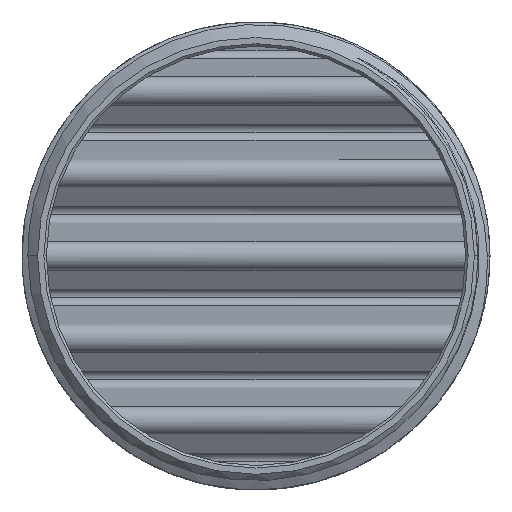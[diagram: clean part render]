
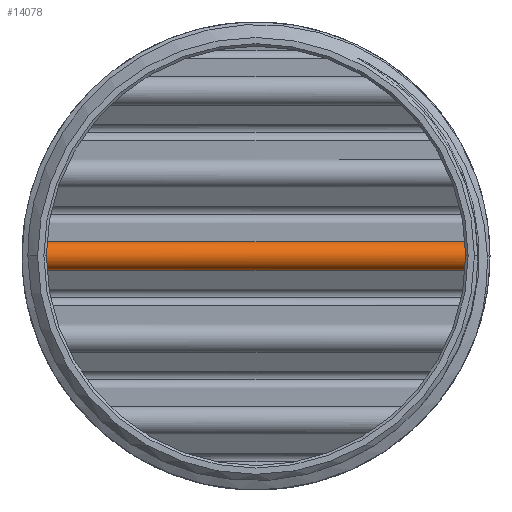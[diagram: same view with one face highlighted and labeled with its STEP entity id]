
A CAD part, top view. The second image highlights one B-rep face of the part: STEP entity #14078.
In plain terms, the highlighted cylindrical face has radius 1.492 mm (diameter 2.984 mm), a partial arc.
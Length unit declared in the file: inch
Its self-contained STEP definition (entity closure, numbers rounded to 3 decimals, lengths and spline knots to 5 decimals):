
#246 = CARTESIAN_POINT ( 'NONE',  ( 0.84, 0., 0. ) ) ;
#303 = CARTESIAN_POINT ( 'NONE',  ( 0.84, 0., 0. ) ) ;
#632 = CARTESIAN_POINT ( 'NONE',  ( -0.83967, 0.02578, -0.00439 ) ) ;
#875 = CYLINDRICAL_SURFACE ( 'NONE', #14799, 0.05875 ) ;
#968 = FACE_OUTER_BOUND ( 'NONE', #5817, .T. ) ;
#997 = CARTESIAN_POINT ( 'NONE',  ( -0.84, 0., 0. ) ) ;
#1983 = CARTESIAN_POINT ( 'NONE',  ( 0.839, 0.0412, -0.01637 ) ) ;
#2055 = CARTESIAN_POINT ( 'NONE',  ( 0.83807, 0.05693, -0.04423 ) ) ;
#2251 = CARTESIAN_POINT ( 'NONE',  ( 0.84, -0.00653, 0. ) ) ;
#2628 = EDGE_CURVE ( 'NONE', #20427, #12215, #3025, .T. ) ;
#3025 = LINE ( 'NONE', #14902, #8399 ) ;
#3804 = ORIENTED_EDGE ( 'NONE', *, *, #15403, .F. ) ;
#3927 = VECTOR ( 'NONE', #20384, 39.37008 ) ;
#4261 = CARTESIAN_POINT ( 'NONE',  ( -0.83967, -0.02576, -0.00436 ) ) ;
#4585 = CARTESIAN_POINT ( 'NONE',  ( -0.83807, -0.05693, -0.04423 ) ) ;
#5245 = CARTESIAN_POINT ( 'NONE',  ( 0.83835, 0.05272, -0.03201 ) ) ;
#5521 = CARTESIAN_POINT ( 'NONE',  ( -0.83829, 0.0537, -0.03158 ) ) ;
#5556 = CARTESIAN_POINT ( 'NONE',  ( -0.83807, -0.05693, -0.04423 ) ) ;
#5621 = CARTESIAN_POINT ( 'NONE',  ( -0.84, 0.013, 0. ) ) ;
#5817 = EDGE_LOOP ( 'NONE', ( #11513, #12515, #7499, #17118, #5905, #3804 ) ) ;
#5905 = ORIENTED_EDGE ( 'NONE', *, *, #9117, .F. ) ;
#6087 = CARTESIAN_POINT ( 'NONE',  ( -0.83901, -0.04119, -0.01636 ) ) ;
#6170 = DIRECTION ( 'NONE',  ( 0., 0., -1. ) ) ;
#6582 = VERTEX_POINT ( 'NONE', #18367 ) ;
#7499 = ORIENTED_EDGE ( 'NONE', *, *, #18759, .F. ) ;
#7529 = CARTESIAN_POINT ( 'NONE',  ( 0.83964, -0.02522, -0.00529 ) ) ;
#7578 = CARTESIAN_POINT ( 'NONE',  ( -0.83877, -0.04557, -0.0211 ) ) ;
#7776 = CARTESIAN_POINT ( 'NONE',  ( -0.83807, 0.05693, -0.04423 ) ) ;
#8399 = VECTOR ( 'NONE', #16224, 39.37008 ) ;
#8843 = CARTESIAN_POINT ( 'NONE',  ( 0.83992, -0.01288, -0.00106 ) ) ;
#9117 = EDGE_CURVE ( 'NONE', #6582, #14117, #9316, .T. ) ;
#9316 = B_SPLINE_CURVE_WITH_KNOTS ( 'NONE', 3,
 ( #13921, #5621, #632, #20328, #5521, #12108 ),
 .UNSPECIFIED., .F., .F.,
 ( 4, 2, 4 ),
 ( 0.00196, 0.00294, 0.00392 ),
 .UNSPECIFIED. ) ;
#9420 = CARTESIAN_POINT ( 'NONE',  ( -0.83818, -0.05531, -0.0379 ) ) ;
#9474 = CARTESIAN_POINT ( 'NONE',  ( 0.83945, -0.03089, -0.00835 ) ) ;
#9497 = B_SPLINE_CURVE_WITH_KNOTS ( 'NONE', 3,
 ( #303, #2251, #8843, #7529, #9474, #12617, #13910, #19335 ),
 .UNSPECIFIED., .F., .F.,
 ( 4, 2, 2, 4 ),
 ( 0., 0.00049, 0.00098, 0.00196 ),
 .UNSPECIFIED. ) ;
#9824 = VERTEX_POINT ( 'NONE', #2055 ) ;
#10448 = LINE ( 'NONE', #11949, #3927 ) ;
#11513 = ORIENTED_EDGE ( 'NONE', *, *, #2628, .T. ) ;
#11607 = CARTESIAN_POINT ( 'NONE',  ( 0.83877, 0.04557, -0.02111 ) ) ;
#11831 = CARTESIAN_POINT ( 'NONE',  ( 0.84, 0.01306, 0. ) ) ;
#11949 = CARTESIAN_POINT ( 'NONE',  ( -1.06, 0.05693, -0.04423 ) ) ;
#12108 = CARTESIAN_POINT ( 'NONE',  ( -0.83807, 0.05693, -0.04423 ) ) ;
#12215 = VERTEX_POINT ( 'NONE', #19540 ) ;
#12515 = ORIENTED_EDGE ( 'NONE', *, *, #14402, .F. ) ;
#12617 = CARTESIAN_POINT ( 'NONE',  ( 0.83879, -0.04632, -0.02033 ) ) ;
#12952 = EDGE_CURVE ( 'NONE', #14117, #9824, #10448, .T. ) ;
#13332 = CARTESIAN_POINT ( 'NONE',  ( 0.83967, 0.02578, -0.00438 ) ) ;
#13559 = CARTESIAN_POINT ( 'NONE',  ( 0.83807, 0.05693, -0.04423 ) ) ;
#13910 = CARTESIAN_POINT ( 'NONE',  ( 0.83829, -0.0537, -0.03157 ) ) ;
#13921 = CARTESIAN_POINT ( 'NONE',  ( -0.84, 0., 0. ) ) ;
#14078 = ADVANCED_FACE ( 'NONE', ( #968 ), #875, .T. ) ;
#14117 = VERTEX_POINT ( 'NONE', #7776 ) ;
#14176 = CARTESIAN_POINT ( 'NONE',  ( -0.84, -0.01301, 0. ) ) ;
#14402 = EDGE_CURVE ( 'NONE', #19837, #12215, #9497, .T. ) ;
#14799 = AXIS2_PLACEMENT_3D ( 'NONE', #17619, #19036, #6170 ) ;
#14902 = CARTESIAN_POINT ( 'NONE',  ( -1.06, -0.05693, -0.04423 ) ) ;
#15403 = EDGE_CURVE ( 'NONE', #20427, #6582, #19656, .T. ) ;
#15479 = CARTESIAN_POINT ( 'NONE',  ( 0.84, 0., 0. ) ) ;
#16224 = DIRECTION ( 'NONE',  ( 1., 0., 0. ) ) ;
#17118 = ORIENTED_EDGE ( 'NONE', *, *, #12952, .F. ) ;
#17619 = CARTESIAN_POINT ( 'NONE',  ( -1.06, 0., -0.05875 ) ) ;
#18367 = CARTESIAN_POINT ( 'NONE',  ( -0.84, 0., 0. ) ) ;
#18759 = EDGE_CURVE ( 'NONE', #9824, #19837, #21150, .T. ) ;
#19036 = DIRECTION ( 'NONE',  ( 1., 0., 0. ) ) ;
#19164 = CARTESIAN_POINT ( 'NONE',  ( -0.83835, -0.05272, -0.03201 ) ) ;
#19335 = CARTESIAN_POINT ( 'NONE',  ( 0.83807, -0.05693, -0.04423 ) ) ;
#19540 = CARTESIAN_POINT ( 'NONE',  ( 0.83807, -0.05693, -0.04423 ) ) ;
#19656 = B_SPLINE_CURVE_WITH_KNOTS ( 'NONE', 3,
 ( #4585, #9420, #19164, #7578, #6087, #4261, #14176, #997 ),
 .UNSPECIFIED., .F., .F.,
 ( 4, 2, 2, 4 ),
 ( 0., 0.00049, 0.00098, 0.00196 ),
 .UNSPECIFIED. ) ;
#19837 = VERTEX_POINT ( 'NONE', #15479 ) ;
#20267 = CARTESIAN_POINT ( 'NONE',  ( 0.83818, 0.05531, -0.0379 ) ) ;
#20328 = CARTESIAN_POINT ( 'NONE',  ( -0.83879, 0.04626, -0.02029 ) ) ;
#20384 = DIRECTION ( 'NONE',  ( 1., 0., 0. ) ) ;
#20427 = VERTEX_POINT ( 'NONE', #5556 ) ;
#21150 = B_SPLINE_CURVE_WITH_KNOTS ( 'NONE', 3,
 ( #13559, #20267, #5245, #11607, #1983, #13332, #11831, #246 ),
 .UNSPECIFIED., .F., .F.,
 ( 4, 2, 2, 4 ),
 ( -0.00196, -0.00147, -0.00098, 0. ),
 .UNSPECIFIED. ) ;
